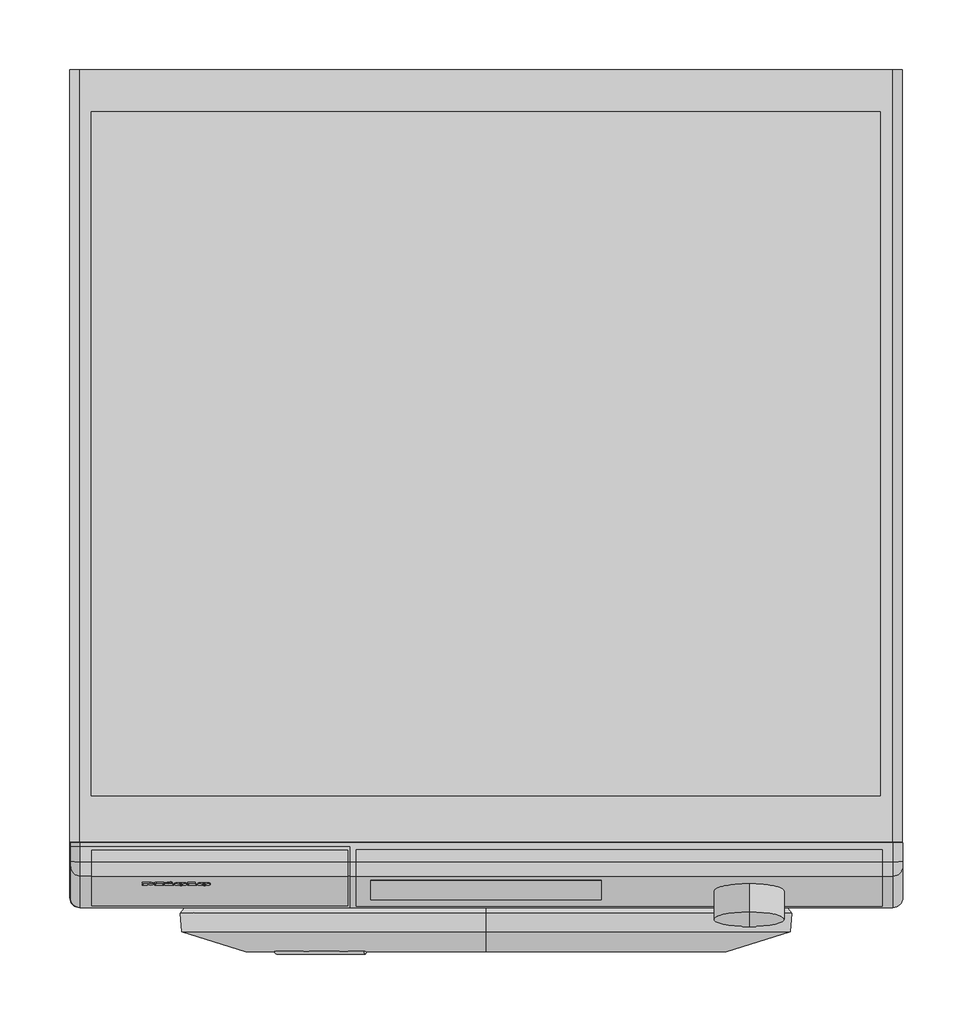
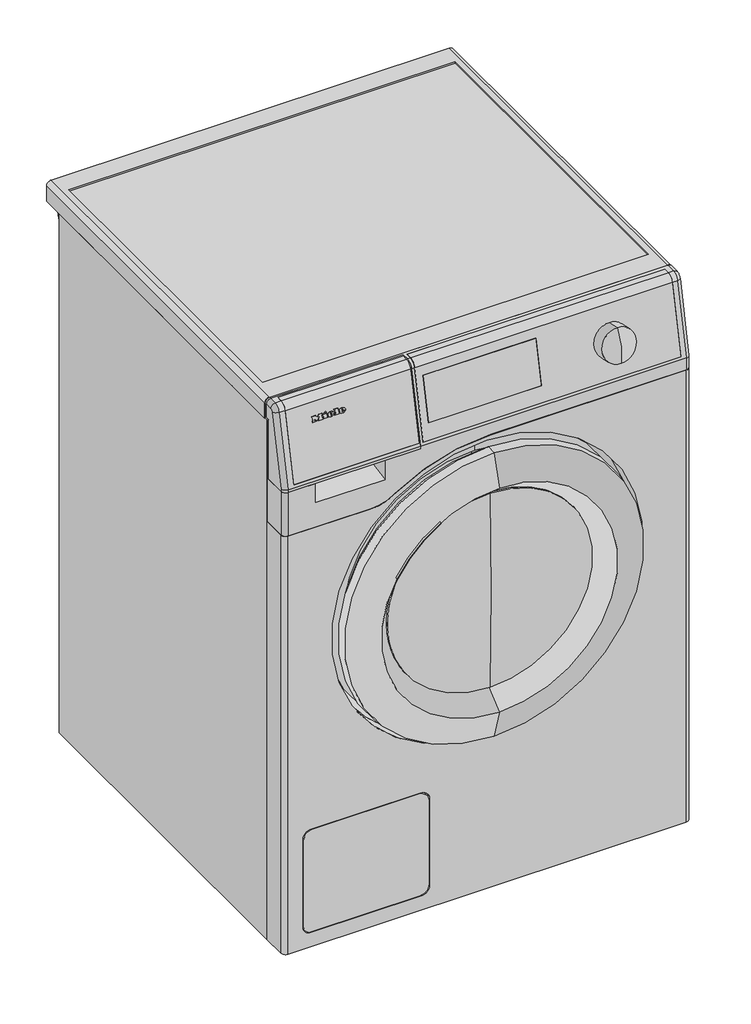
# Not in any storey: 1 proxy.
"""IFC4 building model written with IfcOpenShell, lengths in millimetres."""

from ifc_helpers import new_model, si_unit, origin, place, context, project, spatial, transform, mapped, element, save
from components import specialty_equipment_a851d86d, specialty_equipment_c5ddfba9

model = new_model("IFC4")

# Units and contexts
model_context = context("Model", 3, world=origin())
ifc_project = project(units=[si_unit("LENGTHUNIT", "METRE", prefix="MILLI")], contexts=[model_context])

# Site, building
site = spatial("IfcSite", under=ifc_project)
building = spatial("IfcBuilding", under=site)

# Proxy
placement = place(None, origin())
specialty_equipment_shape = specialty_equipment_a851d86d(model_context)
specialty_equipment_2_shape = specialty_equipment_c5ddfba9(model_context)
element("IfcBuildingElementProxy", 1, Name="12507000_AUS_PWM1108DP_LWSmartBi : 51110801_AUS_12507000_PWM1108DP_LWSmartBi", ObjectType="12507000_AUS_PWM1108DP_LWSmartBi : 51110801_AUS_12507000_PWM1108DP_LWSmartBi", at=placement, inside=building, context=model_context, shape_type="MappedRepresentation", body=[
    mapped(specialty_equipment_shape, transform((0.0, 0.0, 0.0), x_axis=(1.0, 0.0, 0.0), y_axis=(0.0, 1.0, 0.0), z_axis=(0.0, 0.0, 1.0))),
    mapped(specialty_equipment_2_shape, transform((0.0, 0.0, 0.0), x_axis=(1.0, 0.0, 0.0), y_axis=(0.0, 1.0, 0.0), z_axis=(0.0, 0.0, 1.0))),
])

save(model, "model.ifc")
